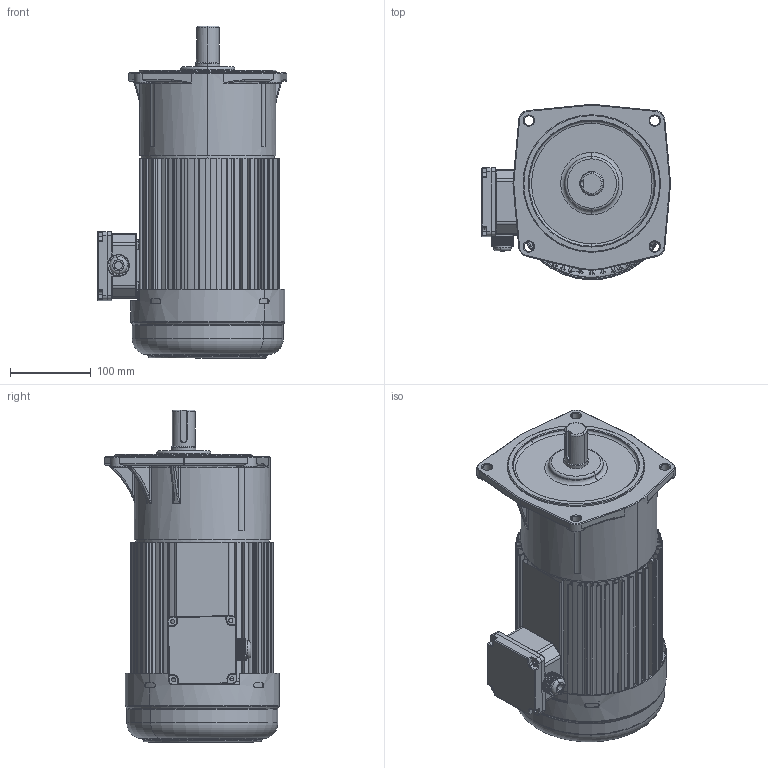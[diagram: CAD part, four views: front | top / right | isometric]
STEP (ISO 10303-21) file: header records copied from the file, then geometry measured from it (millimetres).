
FILE_DESCRIPTION (( 'STEP AP203' ), '1' );
FILE_NAME ('1500W饜3#蕾宒.STEP', '2020-04-15T02:14:49', ( 'china' ), ( 'china' ), 'SwSTEP 2.0', 'SolidWorks 2019', '' );
FILE_SCHEMA (( 'CONFIG_CONTROL_DESIGN' ));
Length unit declared in the file: millimetre
Products named in the file (8): 1500W儂褲; 諉芛; 1500W綴傷裔; 蜊輛綴諉盄碟裔3; 3#蕾宒眊极; 1500W饜3#蕾宒; 瑞欶; 蜊輛綴諉盄碟釱3
Assembly tree (7 placements, depth 2):
  1500W饜3#蕾宒
    1500W儂褲
    1500W綴傷裔
    瑞欶
    蜊輛綴諉盄碟釱3
    諉芛
    蜊輛綴諉盄碟裔3
    3#蕾宒眊极
Bounding box: 233.98 x 216.4 x 410.45 mm (x, y, z)
Volume: 3366131.1 mm3; surface area: 744901 mm2
Topology: 7 solids, 7 shells, 2643 faces, 7126 edges, 4539 vertices
Faces by surface type: plane 1188, cylinder 828, bspline 285, torus 180, cone 152, sphere 10
Entity records: 101106 total; most frequent: CARTESIAN_POINT 34657, ORIENTED_EDGE 14204, DIRECTION 13082, EDGE_CURVE 7102, VERTEX_POINT 4539, AXIS2_PLACEMENT_3D 4469, LINE 4144, VECTOR 4144
